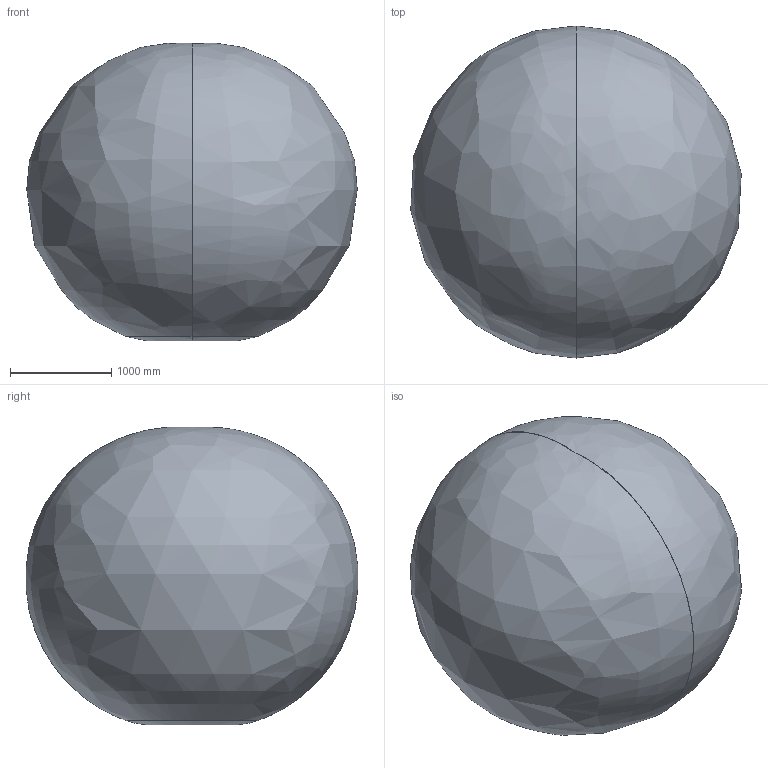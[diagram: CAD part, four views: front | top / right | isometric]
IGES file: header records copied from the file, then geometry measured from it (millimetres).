
Start section: SolidWorks IGES file using analytic representation for surfaces
Global section: file name: C:\Data\Lättmodeller\Nytt\2600\IRB2600\IRB2600_20-165_IRC5_rev00\IRB2600_20-165_IRC5_rev00_IRC5_IGES_j\IRB2600_20-165_WORKING-SPACE_rev00.IGS; native system: SolidWorks 2014; preprocessor: SolidWorks 2014; author: seadbov; date: 161202.125154; units: millimetre
Bounding box: 3268.49 x 3283.42 x 2946.06 mm (x, y, z)
Surface area: 35050509.3 mm2 (no closed solid volume)
Topology: 0 solids, 0 shells, 8 faces, 32 edges, 24 vertices
Faces by surface type: bspline 8
